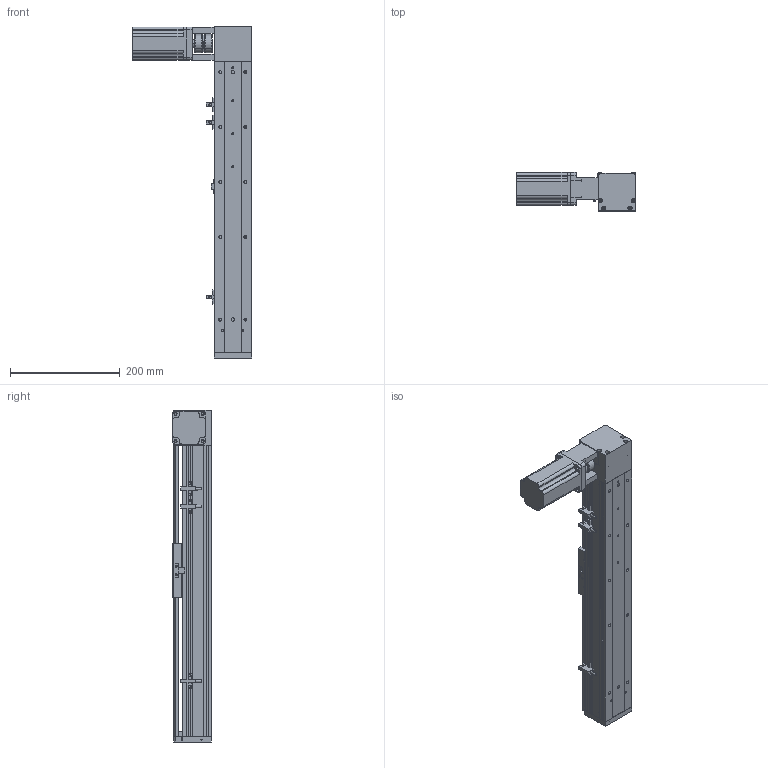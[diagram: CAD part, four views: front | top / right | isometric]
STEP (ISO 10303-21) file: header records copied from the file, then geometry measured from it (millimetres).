
FILE_DESCRIPTION (( 'STEP AP203' ), '1' );
FILE_NAME ('ML68-S350-BL.STEP', '2016-06-01T03:05:01', ( '微软用户' ), ( '微软中国' ), 'SwSTEP 2.0', 'SolidWorks 2014', '' );
FILE_SCHEMA (( 'CONFIG_CONTROL_DESIGN' ));
Length unit declared in the file: millimetre
Products named in the file (12): 換覜ん; 三协电机MH201N2_預設; 联轴器（CS34X32-8X14）_預設; MS68-TS0204鎮湛嘐隅釱_蕼偞; ML68-奻裔^ML68-S350-BL; ML68-BL傷啣; ML68雄赽釱; 60換覜結え; ML68滅鳥啣盓傅輸; ML68-菁釱^ML68-S350-BL; ML68-S350-BL; ML68傷啣
Assembly tree (13 placements, depth 2):
  ML68-S350-BL
    ML68-BL傷啣
    60換覜結え
    ML68-菁釱^ML68-S350-BL
    ML68傷啣
    換覜ん  x3
    三协电机MH201N2_預設
    联轴器（CS34X32-8X14）_預設
    MS68-TS0204鎮湛嘐隅釱_蕼偞
    ML68-奻裔^ML68-S350-BL
    ML68雄赽釱
    ML68滅鳥啣盓傅輸
Bounding box: 216.5 x 70.5 x 604 mm (x, y, z)
Volume: 1369774.4 mm3; surface area: 447036.2 mm2
Topology: 14 solids, 14 shells, 855 faces, 2313 edges, 1463 vertices
Faces by surface type: cylinder 391, plane 354, cone 100, bspline 10
Entity records: 27001 total; most frequent: CARTESIAN_POINT 5271, DIRECTION 4405, ORIENTED_EDGE 4142, EDGE_CURVE 2071, AXIS2_PLACEMENT_3D 1607, VERTEX_POINT 1351, LINE 1191, VECTOR 1191
